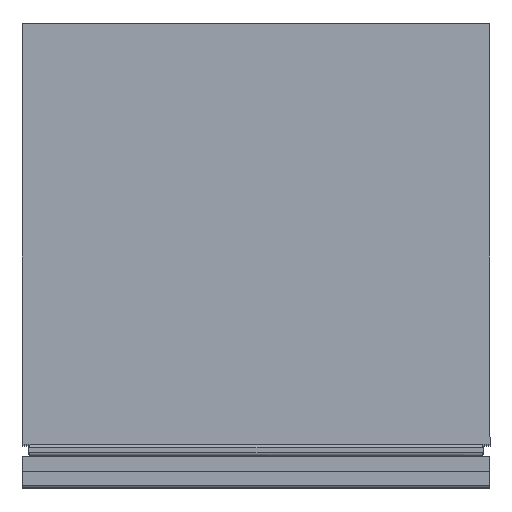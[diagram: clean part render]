
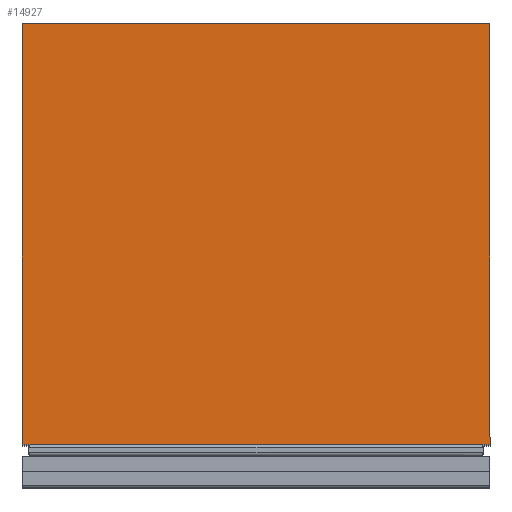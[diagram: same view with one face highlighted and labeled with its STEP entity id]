
A CAD part, top view. The second image highlights one B-rep face of the part: STEP entity #14927.
In plain terms, the highlighted planar face has unit normal (0, 0, 1).
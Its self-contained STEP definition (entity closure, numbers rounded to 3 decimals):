
#1212=FACE_OUTER_BOUND('',#2085,.T.);
#2085=EDGE_LOOP('',(#9807,#9808,#9809,#9810));
#3057=LINE('',#22324,#4520);
#3087=LINE('',#22384,#4550);
#3088=LINE('',#22386,#4551);
#3089=LINE('',#22387,#4552);
#4520=VECTOR('',#17539,10.);
#4550=VECTOR('',#17589,10.);
#4551=VECTOR('',#17590,10.);
#4552=VECTOR('',#17591,10.);
#5969=VERTEX_POINT('',#22321);
#5970=VERTEX_POINT('',#22323);
#5990=VERTEX_POINT('',#22383);
#5991=VERTEX_POINT('',#22385);
#7437=EDGE_CURVE('',#5970,#5969,#3057,.T.);
#7467=EDGE_CURVE('',#5969,#5990,#3087,.T.);
#7468=EDGE_CURVE('',#5991,#5990,#3088,.T.);
#7469=EDGE_CURVE('',#5991,#5970,#3089,.T.);
#9807=ORIENTED_EDGE('',*,*,#7467,.T.);
#9808=ORIENTED_EDGE('',*,*,#7468,.F.);
#9809=ORIENTED_EDGE('',*,*,#7469,.T.);
#9810=ORIENTED_EDGE('',*,*,#7437,.T.);
#14287=PLANE('',#15831);
#14927=ADVANCED_FACE('',(#1212),#14287,.T.);
#15831=AXIS2_PLACEMENT_3D('',#22382,#17587,#17588);
#17539=DIRECTION('',(1.,0.,0.));
#17587=DIRECTION('center_axis',(0.,0.,1.));
#17588=DIRECTION('ref_axis',(0.,-1.,0.));
#17589=DIRECTION('',(0.,1.,0.));
#17590=DIRECTION('',(1.,0.,0.));
#17591=DIRECTION('',(0.,-1.,0.));
#22321=CARTESIAN_POINT('',(595.,-535.,821.2));
#22323=CARTESIAN_POINT('',(0.,-535.,821.2));
#22324=CARTESIAN_POINT('',(0.,-535.,821.2));
#22382=CARTESIAN_POINT('Origin',(0.,0.,821.2));
#22383=CARTESIAN_POINT('',(595.,0.,821.2));
#22384=CARTESIAN_POINT('',(595.,-133.75,821.2));
#22385=CARTESIAN_POINT('',(0.,0.,821.2));
#22386=CARTESIAN_POINT('',(0.,0.,821.2));
#22387=CARTESIAN_POINT('',(0.,0.,821.2));
